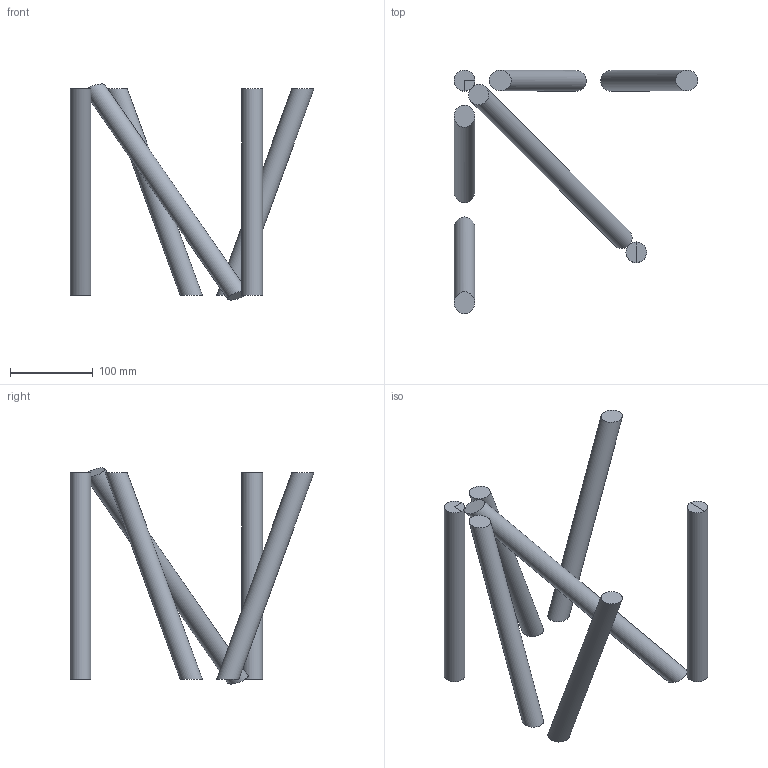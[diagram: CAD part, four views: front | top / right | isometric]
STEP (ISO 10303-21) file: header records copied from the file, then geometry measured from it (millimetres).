
FILE_DESCRIPTION(/* description */ (''),/* implementation_level */ '2;1');
FILE_NAME(/* name */ 'M:\Symbolen_NIEUW\STP\Corners\S36R\S36R-C003_111100009.stp',/* time_stamp */ '2017-11-17T15:48:40+01:00',/* author */ ('Kees'),/* organization */ (''),/* preprocessor_version */ 'ST-DEVELOPER v16.13',/* originating_system */ 'Autodesk Inventor 2018',/* authorisation */ '');
FILE_SCHEMA (('AUTOMOTIVE_DESIGN { 1 0 10303 214 3 1 1 }'));
Length unit declared in the file: millimetre
Products named in the file (1): 260031113
Bounding box: 293.82 x 293.82 x 260.35 mm (x, y, z)
Volume: 936056.8 mm3; surface area: 156948.6 mm2
Topology: 5 solids, 5 shells, 25 faces, 40 edges, 27 vertices
Faces by surface type: plane 18, cylinder 7
Full cylindrical faces by diameter (mm): 25 x7
Entity records: 593 total; most frequent: DIRECTION 102, CARTESIAN_POINT 76, ORIENTED_EDGE 56, AXIS2_PLACEMENT_3D 48, EDGE_LOOP 34, STYLED_ITEM 30, EDGE_CURVE 28, FACE_OUTER_BOUND 25
